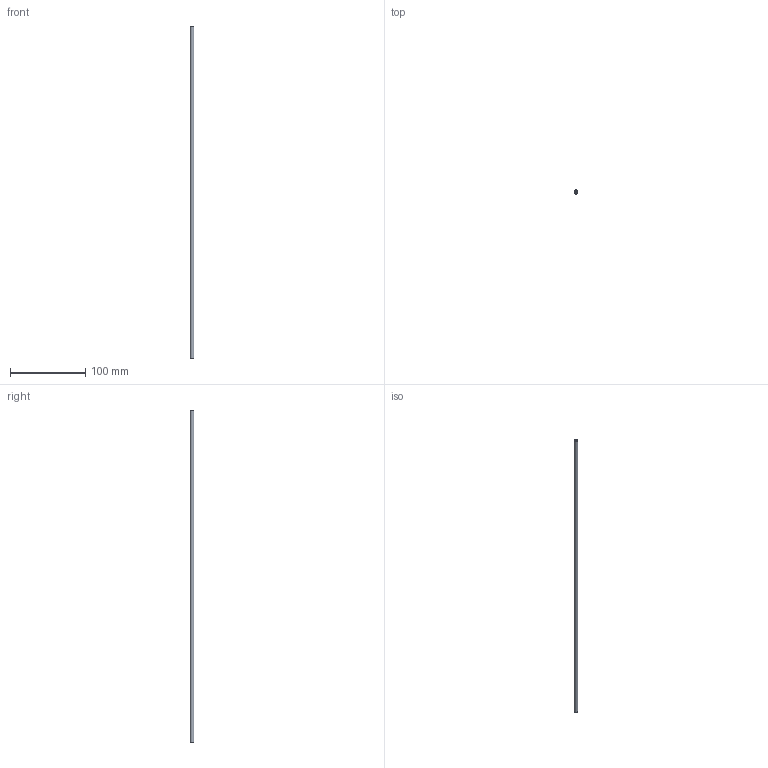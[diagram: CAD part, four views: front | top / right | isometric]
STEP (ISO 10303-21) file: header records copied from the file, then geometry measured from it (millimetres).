
FILE_DESCRIPTION(('Open CASCADE Model'),'2;1');
FILE_NAME('Open CASCADE Shape Model','2026-11-04T08:45:18',('Author'),( 'Open CASCADE'),'Open CASCADE STEP processor 7.8','Open CASCADE 7.8' ,'Unknown');
FILE_SCHEMA(('AUTOMOTIVE_DESIGN { 1 0 10303 214 1 1 1 1 }'));
Length unit declared in the file: millimetre
Products named in the file (1): Open CASCADE STEP translator 7.8 23
Bounding box: 5 x 5 x 440 mm (x, y, z)
Volume: 5529.2 mm3; surface area: 11083.5 mm2
Topology: 1 solids, 1 shells, 4 faces, 6 edges, 4 vertices
Faces by surface type: cylinder 2, plane 2
Full cylindrical faces by diameter (mm): 3 x1, 5 x1
Entity records: 186 total; most frequent: DIRECTION 32, CARTESIAN_POINT 27, ORIENTED_EDGE 12, PCURVE 12, DEFINITIONAL_REPRESENTATION 12, LINE 10, VECTOR 10, AXIS2_PLACEMENT_3D 9
